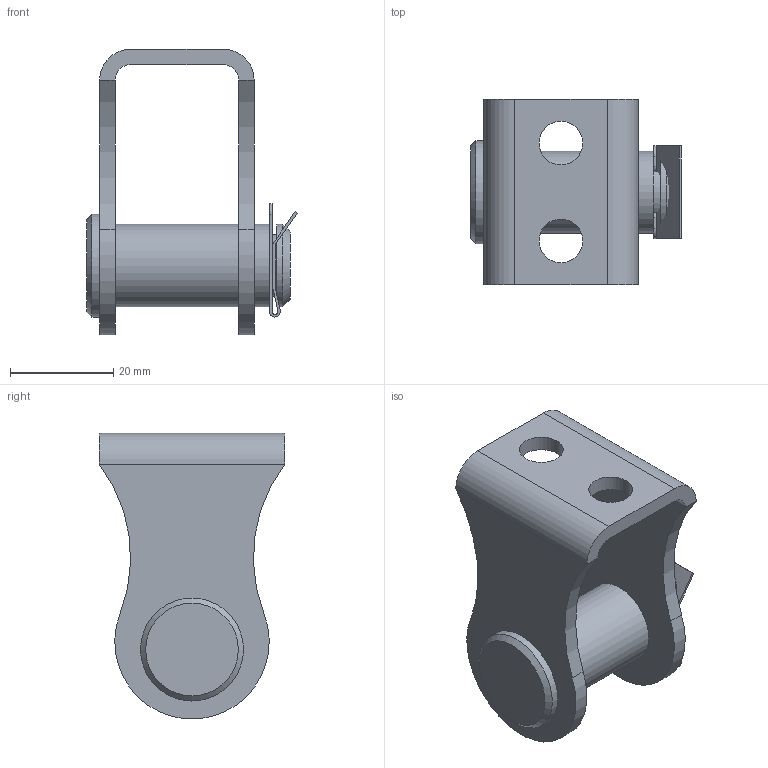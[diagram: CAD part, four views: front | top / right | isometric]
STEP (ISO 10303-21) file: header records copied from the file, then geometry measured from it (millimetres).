
FILE_DESCRIPTION(/* description */ (''),/* implementation_level */ '2;1');
FILE_NAME(/* name */ 'G:\3D-Zeichnungen\Easy-E-line\Beschläge\montiert\Step\EEL900BA50-2KS.stp',/* time_stamp */ '2019-07-17T11:12:45+02:00',/* author */ ('cadneu2'),/* organization */ (''),/* preprocessor_version */ 'ST-DEVELOPER v16.1',/* originating_system */ 'Autodesk Inventor 2016',/* authorisation */ '');
FILE_SCHEMA (('AUTOMOTIVE_DESIGN { 1 0 10303 214 3 1 1 }'));
Length unit declared in the file: millimetre
Products named in the file (4): EEL900BA50U2KS; EEL50-BO-KST; 63790901; EEL900BA50-2KS
Assembly tree (3 placements, depth 2):
  EEL900BA50-2KS
    EEL900BA50U2KS
    EEL50-BO-KST
    63790901
Bounding box: 40.85 x 36 x 55.45 mm (x, y, z)
Volume: 17945.4 mm3; surface area: 11662.3 mm2
Topology: 3 solids, 3 shells, 68 faces, 171 edges, 110 vertices
Faces by surface type: plane 36, cylinder 30, cone 2
Full cylindrical faces by diameter (mm): 8.5 x2, 12 x1, 16 x4, 20 x1
Entity records: 2092 total; most frequent: DIRECTION 373, CARTESIAN_POINT 347, ORIENTED_EDGE 318, EDGE_CURVE 159, AXIS2_PLACEMENT_3D 140, VERTEX_POINT 108, LINE 93, VECTOR 93
